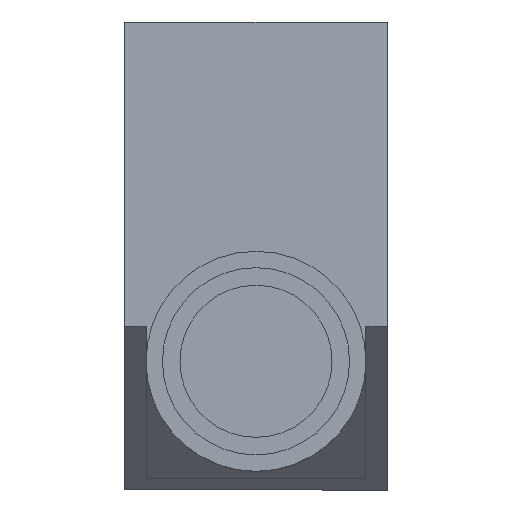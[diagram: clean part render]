
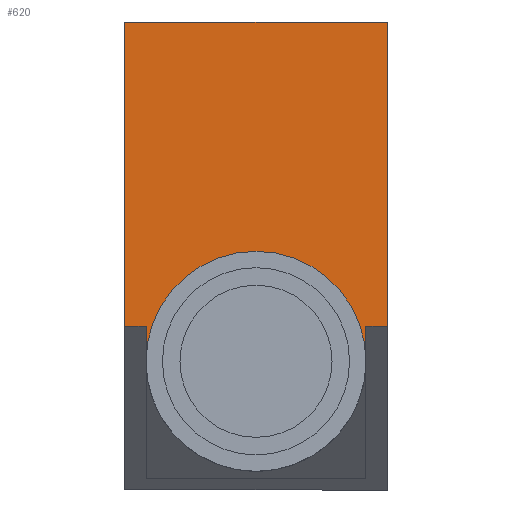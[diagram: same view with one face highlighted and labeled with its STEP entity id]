
A CAD part, front view. The second image highlights one B-rep face of the part: STEP entity #620.
In plain terms, the highlighted planar face has unit normal (0, -1, 0).
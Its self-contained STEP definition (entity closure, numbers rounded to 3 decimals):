
#10 = LINE ( 'NONE', #18, #17 ) ;
#16 = DIRECTION ( 'NONE',  ( 1., 0., 0. ) ) ;
#17 = VECTOR ( 'NONE', #16, 1000. ) ;
#18 = CARTESIAN_POINT ( 'NONE',  ( 0., -31., -5.6 ) ) ;
#252 = VERTEX_POINT ( 'NONE', #1199 ) ;
#254 = EDGE_CURVE ( 'NONE', #252, #317, #1198, .T. ) ;
#305 = VERTEX_POINT ( 'NONE', #1414 ) ;
#308 = VERTEX_POINT ( 'NONE', #1413 ) ;
#317 = VERTEX_POINT ( 'NONE', #1445 ) ;
#373 = VERTEX_POINT ( 'NONE', #1267 ) ;
#375 = EDGE_CURVE ( 'NONE', #376, #373, #1266, .T. ) ;
#376 = VERTEX_POINT ( 'NONE', #1262 ) ;
#389 = EDGE_CURVE ( 'NONE', #390, #391, #1239, .T. ) ;
#390 = VERTEX_POINT ( 'NONE', #1235 ) ;
#391 = VERTEX_POINT ( 'NONE', #1234 ) ;
#590 = ORIENTED_EDGE ( 'NONE', *, *, #591, .T. ) ;
#591 = EDGE_CURVE ( 'NONE', #373, #317, #10, .T. ) ;
#592 = ORIENTED_EDGE ( 'NONE', *, *, #254, .F. ) ;
#620 = ADVANCED_FACE ( 'NONE', ( #1674 ), #1673, .F. ) ;
#621 = EDGE_LOOP ( 'NONE', ( #622, #624, #626, #628, #629, #631, #590, #592 ) ) ;
#622 = ORIENTED_EDGE ( 'NONE', *, *, #623, .T. ) ;
#623 = EDGE_CURVE ( 'NONE', #252, #305, #1668, .T. ) ;
#624 = ORIENTED_EDGE ( 'NONE', *, *, #625, .T. ) ;
#625 = EDGE_CURVE ( 'NONE', #305, #308, #1664, .T. ) ;
#626 = ORIENTED_EDGE ( 'NONE', *, *, #627, .F. ) ;
#627 = EDGE_CURVE ( 'NONE', #391, #308, #1721, .T. ) ;
#628 = ORIENTED_EDGE ( 'NONE', *, *, #389, .F. ) ;
#629 = ORIENTED_EDGE ( 'NONE', *, *, #630, .F. ) ;
#630 = EDGE_CURVE ( 'NONE', #376, #390, #1717, .T. ) ;
#631 = ORIENTED_EDGE ( 'NONE', *, *, #375, .T. ) ;
#1195 = DIRECTION ( 'NONE',  ( 0., 0., -1. ) ) ;
#1196 = VECTOR ( 'NONE', #1195, 1000. ) ;
#1197 = CARTESIAN_POINT ( 'NONE',  ( 13., -31., 55.193 ) ) ;
#1198 = LINE ( 'NONE', #1197, #1196 ) ;
#1199 = CARTESIAN_POINT ( 'NONE',  ( 13., -31., -4.7 ) ) ;
#1234 = CARTESIAN_POINT ( 'NONE',  ( 13., -31., 4.7 ) ) ;
#1235 = CARTESIAN_POINT ( 'NONE',  ( 13., -31., 5.6 ) ) ;
#1236 = DIRECTION ( 'NONE',  ( 0., 0., -1. ) ) ;
#1237 = VECTOR ( 'NONE', #1236, 1000. ) ;
#1238 = CARTESIAN_POINT ( 'NONE',  ( 13., -31., 55.193 ) ) ;
#1239 = LINE ( 'NONE', #1238, #1237 ) ;
#1262 = CARTESIAN_POINT ( 'NONE',  ( 0., -31., 5.6 ) ) ;
#1263 = DIRECTION ( 'NONE',  ( 0., 0., -1. ) ) ;
#1264 = VECTOR ( 'NONE', #1263, 1000. ) ;
#1265 = CARTESIAN_POINT ( 'NONE',  ( 0., -31., 5.6 ) ) ;
#1266 = LINE ( 'NONE', #1265, #1264 ) ;
#1267 = CARTESIAN_POINT ( 'NONE',  ( 0., -31., -5.6 ) ) ;
#1413 = CARTESIAN_POINT ( 'NONE',  ( 14.5, -31., 4.7 ) ) ;
#1414 = CARTESIAN_POINT ( 'NONE',  ( 14.5, -31., -4.7 ) ) ;
#1445 = CARTESIAN_POINT ( 'NONE',  ( 13., -31., -5.6 ) ) ;
#1661 = DIRECTION ( 'NONE',  ( 0., 1., 0. ) ) ;
#1662 = CARTESIAN_POINT ( 'NONE',  ( 14.5, -31., 0. ) ) ;
#1663 = AXIS2_PLACEMENT_3D ( 'NONE', #1662, #1661, #1722 ) ;
#1664 = CIRCLE ( 'NONE', #1663, 4.7 ) ;
#1665 = DIRECTION ( 'NONE',  ( 1., 0., 0. ) ) ;
#1666 = VECTOR ( 'NONE', #1665, 1000. ) ;
#1667 = CARTESIAN_POINT ( 'NONE',  ( 14.5, -31., -4.7 ) ) ;
#1668 = LINE ( 'NONE', #1667, #1666 ) ;
#1669 = DIRECTION ( 'NONE',  ( 0., 0., 1. ) ) ;
#1670 = DIRECTION ( 'NONE',  ( 0., 1., 0. ) ) ;
#1671 = CARTESIAN_POINT ( 'NONE',  ( 0., -31., 5.6 ) ) ;
#1672 = AXIS2_PLACEMENT_3D ( 'NONE', #1671, #1670, #1669 ) ;
#1673 = PLANE ( 'NONE',  #1672 ) ;
#1674 = FACE_OUTER_BOUND ( 'NONE', #621, .T. ) ;
#1714 = DIRECTION ( 'NONE',  ( 1., 0., 0. ) ) ;
#1715 = VECTOR ( 'NONE', #1714, 1000. ) ;
#1716 = CARTESIAN_POINT ( 'NONE',  ( 0., -31., 5.6 ) ) ;
#1717 = LINE ( 'NONE', #1716, #1715 ) ;
#1718 = DIRECTION ( 'NONE',  ( 1., 0., 0. ) ) ;
#1719 = VECTOR ( 'NONE', #1718, 1000. ) ;
#1720 = CARTESIAN_POINT ( 'NONE',  ( 14.5, -31., 4.7 ) ) ;
#1721 = LINE ( 'NONE', #1720, #1719 ) ;
#1722 = DIRECTION ( 'NONE',  ( 0., 0., 1. ) ) ;
